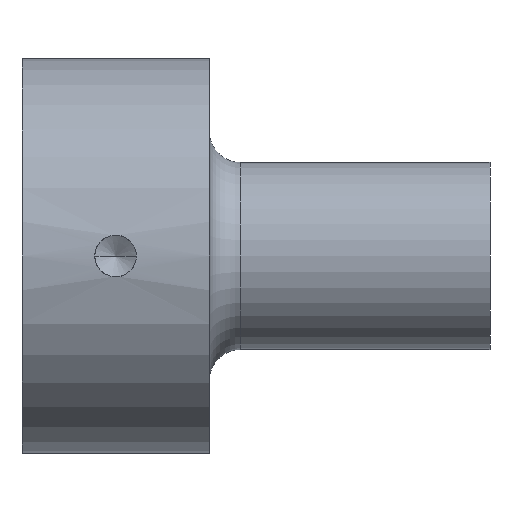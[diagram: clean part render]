
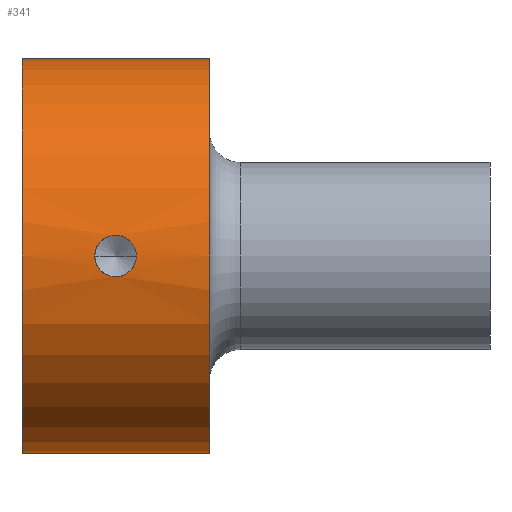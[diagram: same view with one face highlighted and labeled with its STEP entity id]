
A CAD part, front view. The second image highlights one B-rep face of the part: STEP entity #341.
In plain terms, the highlighted cylindrical face has radius 19 mm (diameter 38 mm), a partial arc.
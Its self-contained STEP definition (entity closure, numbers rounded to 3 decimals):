
#3 = CARTESIAN_POINT ( 'NONE',  ( 7.202, -18.98, 0.887 ) ) ;
#9 = ORIENTED_EDGE ( 'NONE', *, *, #390, .F. ) ;
#24 = CARTESIAN_POINT ( 'NONE',  ( 0., 0., 0. ) ) ;
#30 = DIRECTION ( 'NONE',  ( -1., 0., 0. ) ) ;
#34 = CARTESIAN_POINT ( 'NONE',  ( 7.78, -18.933, -1.59 ) ) ;
#36 = AXIS2_PLACEMENT_3D ( 'NONE', #24, #64, #104 ) ;
#41 = CARTESIAN_POINT ( 'NONE',  ( 0., 0., -19. ) ) ;
#50 = CARTESIAN_POINT ( 'NONE',  ( 7.265, -18.974, 1.004 ) ) ;
#54 = CARTESIAN_POINT ( 'NONE',  ( 7.401, -18.961, -1.229 ) ) ;
#62 = CARTESIAN_POINT ( 'NONE',  ( 8.112, -18.915, -1.797 ) ) ;
#64 = DIRECTION ( 'NONE',  ( -1., 0., 0. ) ) ;
#69 = CARTESIAN_POINT ( 'NONE',  ( 7.493, -18.954, 1.321 ) ) ;
#73 = CARTESIAN_POINT ( 'NONE',  ( 10.797, -18.98, 0.887 ) ) ;
#77 = CARTESIAN_POINT ( 'NONE',  ( 8.736, -18.896, -1.987 ) ) ;
#82 = EDGE_LOOP ( 'NONE', ( #98, #9 ) ) ;
#83 = ORIENTED_EDGE ( 'NONE', *, *, #546, .F. ) ;
#84 = VERTEX_POINT ( 'NONE', #284 ) ;
#88 = AXIS2_PLACEMENT_3D ( 'NONE', #205, #30, #333 ) ;
#89 = EDGE_CURVE ( 'NONE', #517, #170, #147, .T. ) ;
#98 = ORIENTED_EDGE ( 'NONE', *, *, #334, .F. ) ;
#104 = DIRECTION ( 'NONE',  ( 0., 0., 1. ) ) ;
#108 = AXIS2_PLACEMENT_3D ( 'NONE', #212, #362, #198 ) ;
#114 = DIRECTION ( 'NONE',  ( -1., 0., 0. ) ) ;
#116 = CARTESIAN_POINT ( 'NONE',  ( 10.591, -18.961, 1.219 ) ) ;
#119 = CARTESIAN_POINT ( 'NONE',  ( 7.052, -18.994, -0.524 ) ) ;
#123 = CARTESIAN_POINT ( 'NONE',  ( 11., -19., 0.132 ) ) ;
#125 = B_SPLINE_CURVE_WITH_KNOTS ( 'NONE', 3,
 ( #534, #123, #483, #441, #293, #73, #308, #116, #176, #162, #331, #165, #425, #281, #410, #319, #335, #402, #367, #214, #522, #69, #159, #50, #3, #532, #542, #524, #447, #251 ),
 .UNSPECIFIED., .F., .F.,
 ( 4, 2, 2, 2, 2, 2, 2, 2, 2, 2, 2, 2, 2, 2, 4 ),
 ( 0., 0., 0.001, 0.001, 0.002, 0.002, 0.003, 0.004, 0.004, 0.004, 0.005, 0.005, 0.005, 0.006, 0.006 ),
 .UNSPECIFIED. ) ;
#135 = ORIENTED_EDGE ( 'NONE', *, *, #332, .T. ) ;
#139 = LINE ( 'NONE', #250, #270 ) ;
#147 = CIRCLE ( 'NONE', #36, 19. ) ;
#159 = CARTESIAN_POINT ( 'NONE',  ( 7.41, -18.961, 1.22 ) ) ;
#162 = CARTESIAN_POINT ( 'NONE',  ( 10.23, -18.934, 1.599 ) ) ;
#165 = CARTESIAN_POINT ( 'NONE',  ( 9.525, -18.9, 1.947 ) ) ;
#170 = VERTEX_POINT ( 'NONE', #417 ) ;
#176 = CARTESIAN_POINT ( 'NONE',  ( 10.506, -18.954, 1.322 ) ) ;
#194 = CARTESIAN_POINT ( 'NONE',  ( 10.747, -18.975, -1.008 ) ) ;
#198 = DIRECTION ( 'NONE',  ( 0., 0., 1. ) ) ;
#205 = CARTESIAN_POINT ( 'NONE',  ( 0., 0., 0. ) ) ;
#207 = CARTESIAN_POINT ( 'NONE',  ( 9.131, -18.894, -2. ) ) ;
#209 = ORIENTED_EDGE ( 'NONE', *, *, #503, .T. ) ;
#211 = VERTEX_POINT ( 'NONE', #398 ) ;
#212 = CARTESIAN_POINT ( 'NONE',  ( 18., 0., 0. ) ) ;
#213 = VERTEX_POINT ( 'NONE', #366 ) ;
#214 = CARTESIAN_POINT ( 'NONE',  ( 7.78, -18.933, 1.59 ) ) ;
#242 = ORIENTED_EDGE ( 'NONE', *, *, #89, .F. ) ;
#245 = CARTESIAN_POINT ( 'NONE',  ( 11., -19., -0.264 ) ) ;
#250 = CARTESIAN_POINT ( 'NONE',  ( 0., 0., 19. ) ) ;
#251 = CARTESIAN_POINT ( 'NONE',  ( 7., -19., 0. ) ) ;
#253 = CARTESIAN_POINT ( 'NONE',  ( 10.321, -18.94, -1.507 ) ) ;
#255 = CARTESIAN_POINT ( 'NONE',  ( 10.218, -18.933, -1.592 ) ) ;
#270 = VECTOR ( 'NONE', #114, 1000. ) ;
#276 = CARTESIAN_POINT ( 'NONE',  ( 9.261, -18.896, -1.987 ) ) ;
#279 = CARTESIAN_POINT ( 'NONE',  ( 10.598, -18.961, -1.231 ) ) ;
#281 = CARTESIAN_POINT ( 'NONE',  ( 8.87, -18.894, 2. ) ) ;
#284 = CARTESIAN_POINT ( 'NONE',  ( 18., 0., -19. ) ) ;
#291 = CARTESIAN_POINT ( 'NONE',  ( 9.644, -18.905, -1.898 ) ) ;
#293 = CARTESIAN_POINT ( 'NONE',  ( 10.898, -18.989, 0.645 ) ) ;
#294 = CARTESIAN_POINT ( 'NONE',  ( 7., -19., 0. ) ) ;
#297 = FACE_BOUND ( 'NONE', #82, .T. ) ;
#303 = VERTEX_POINT ( 'NONE', #537 ) ;
#308 = CARTESIAN_POINT ( 'NONE',  ( 10.736, -18.974, 1.002 ) ) ;
#319 = CARTESIAN_POINT ( 'NONE',  ( 8.481, -18.901, 1.936 ) ) ;
#329 = CARTESIAN_POINT ( 'NONE',  ( 10.947, -18.994, -0.527 ) ) ;
#331 = CARTESIAN_POINT ( 'NONE',  ( 10.006, -18.92, 1.748 ) ) ;
#332 = EDGE_CURVE ( 'NONE', #84, #211, #405, .T. ) ;
#333 = DIRECTION ( 'NONE',  ( 0., 0., 1. ) ) ;
#334 = EDGE_CURVE ( 'NONE', #303, #213, #125, .T. ) ;
#335 = CARTESIAN_POINT ( 'NONE',  ( 8.356, -18.905, 1.898 ) ) ;
#341 = ADVANCED_FACE ( 'NONE', ( #455, #297 ), #491, .T. ) ;
#345 = LINE ( 'NONE', #393, #501 ) ;
#362 = DIRECTION ( 'NONE',  ( -1., 0., 0. ) ) ;
#363 = CARTESIAN_POINT ( 'NONE',  ( 8.354, -18.905, -1.897 ) ) ;
#366 = CARTESIAN_POINT ( 'NONE',  ( 7., -19., 0. ) ) ;
#367 = CARTESIAN_POINT ( 'NONE',  ( 7.997, -18.921, 1.735 ) ) ;
#370 = CARTESIAN_POINT ( 'NONE',  ( 7.997, -18.921, -1.735 ) ) ;
#371 = DIRECTION ( 'NONE',  ( -1., 0., 0. ) ) ;
#375 = B_SPLINE_CURVE_WITH_KNOTS ( 'NONE', 3,
 ( #294, #408, #119, #448, #54, #502, #34, #370, #62, #363, #401, #77, #544, #207, #276, #399, #291, #442, #484, #255, #253, #279, #194, #329, #245, #468 ),
 .UNSPECIFIED., .F., .F.,
 ( 4, 2, 2, 2, 2, 2, 2, 2, 2, 2, 2, 2, 4 ),
 ( 0.006, 0.007, 0.008, 0.008, 0.009, 0.009, 0.009, 0.01, 0.01, 0.011, 0.011, 0.012, 0.013 ),
 .UNSPECIFIED. ) ;
#390 = EDGE_CURVE ( 'NONE', #213, #303, #375, .T. ) ;
#393 = CARTESIAN_POINT ( 'NONE',  ( 0., 0., -19. ) ) ;
#398 = CARTESIAN_POINT ( 'NONE',  ( 18., 0., 19. ) ) ;
#399 = CARTESIAN_POINT ( 'NONE',  ( 9.517, -18.901, -1.937 ) ) ;
#401 = CARTESIAN_POINT ( 'NONE',  ( 8.481, -18.901, -1.936 ) ) ;
#402 = CARTESIAN_POINT ( 'NONE',  ( 8.114, -18.915, 1.798 ) ) ;
#405 = CIRCLE ( 'NONE', #108, 19. ) ;
#408 = CARTESIAN_POINT ( 'NONE',  ( 7., -19., -0.261 ) ) ;
#410 = CARTESIAN_POINT ( 'NONE',  ( 8.738, -18.896, 1.987 ) ) ;
#417 = CARTESIAN_POINT ( 'NONE',  ( 0., 0., 19. ) ) ;
#425 = CARTESIAN_POINT ( 'NONE',  ( 9.262, -18.894, 2. ) ) ;
#428 = EDGE_LOOP ( 'NONE', ( #83, #135, #209, #242 ) ) ;
#441 = CARTESIAN_POINT ( 'NONE',  ( 10.936, -18.993, 0.518 ) ) ;
#442 = CARTESIAN_POINT ( 'NONE',  ( 9.886, -18.915, -1.798 ) ) ;
#447 = CARTESIAN_POINT ( 'NONE',  ( 7., -19., 0.131 ) ) ;
#448 = CARTESIAN_POINT ( 'NONE',  ( 7.252, -18.975, -1.006 ) ) ;
#455 = FACE_OUTER_BOUND ( 'NONE', #428, .T. ) ;
#468 = CARTESIAN_POINT ( 'NONE',  ( 11., -19., 0. ) ) ;
#483 = CARTESIAN_POINT ( 'NONE',  ( 10.987, -18.999, 0.262 ) ) ;
#484 = CARTESIAN_POINT ( 'NONE',  ( 10.001, -18.921, -1.737 ) ) ;
#491 = CYLINDRICAL_SURFACE ( 'NONE', #88, 19. ) ;
#501 = VECTOR ( 'NONE', #371, 1000. ) ;
#502 = CARTESIAN_POINT ( 'NONE',  ( 7.677, -18.94, -1.505 ) ) ;
#503 = EDGE_CURVE ( 'NONE', #211, #170, #139, .T. ) ;
#517 = VERTEX_POINT ( 'NONE', #41 ) ;
#522 = CARTESIAN_POINT ( 'NONE',  ( 7.679, -18.94, 1.508 ) ) ;
#524 = CARTESIAN_POINT ( 'NONE',  ( 7.013, -18.999, 0.263 ) ) ;
#532 = CARTESIAN_POINT ( 'NONE',  ( 7.102, -18.989, 0.644 ) ) ;
#534 = CARTESIAN_POINT ( 'NONE',  ( 11., -19., 0. ) ) ;
#537 = CARTESIAN_POINT ( 'NONE',  ( 11., -19., 0. ) ) ;
#542 = CARTESIAN_POINT ( 'NONE',  ( 7.064, -18.993, 0.52 ) ) ;
#544 = CARTESIAN_POINT ( 'NONE',  ( 8.866, -18.894, -2. ) ) ;
#546 = EDGE_CURVE ( 'NONE', #84, #517, #345, .T. ) ;
